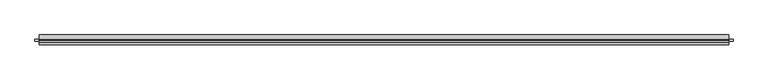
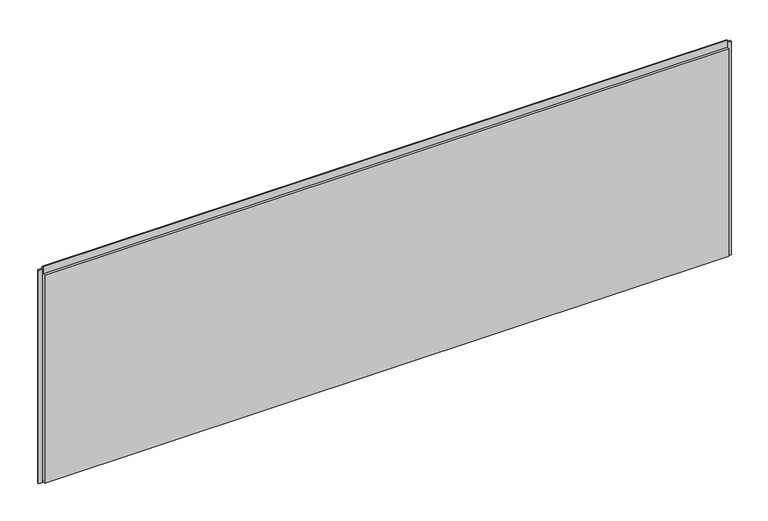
"""IFC4 building model written with IfcOpenShell, lengths in millimetres: plate geometry, Trimo_Qbiss Screen_Normal Panel-HORIZONTAL : HR - B."""

from ifc_helpers import new_model, si_unit, frame, origin, place, context, project, spatial, polyline, outline, extrude, source, transform, mapped, element, save


def plate_c888fad8(model_context):
    return source(origin(), model_context, "Body", "SweptSolid", [
        extrude(outline(polyline([(-1778.0, 76.5978162), (-1778.0, 67.8978162), (-1797.0, 67.8978162), (-1797.0, 76.5978162), (-1778.0, 76.5978162)])), frame((0.0, 0.0, -1.0), z_axis=(0.0, 0.0, 1.0), x_axis=(1.0, 0.0, 0.0)), (0.0, 0.0, 1.0), 1170.0),
        extrude(outline(polyline([(1778.0, 67.8978162), (1778.0, 76.5978162), (1797.0, 76.5978162), (1797.0, 67.8978162), (1778.0, 67.8978162)])), frame((0.0, 0.0, -1.0), z_axis=(0.0, 0.0, 1.0), x_axis=(1.0, 0.0, 0.0)), (0.0, 0.0, 1.0), 1170.0),
        extrude(outline(polyline([(1775.0, 76.0), (1775.0, 71.0), (-1775.0, 71.0), (-1775.0, 76.0), (1775.0, 76.0)])), frame((0.0, 0.0, 1148.0), z_axis=(0.0, 0.0, 1.0), x_axis=(1.0, 0.0, 0.0)), (0.0, 0.0, 1.0), 21.0),
        extrude(outline(polyline([(71.0, 1147.0), (100.0, 1147.0), (100.0, 0.0), (72.0, 0.0), (72.0, 15.5), (62.0, 15.5), (62.0, 7.0), (50.0, 7.0), (50.0, 1147.0), (63.0, 1147.0), (63.0, 1184.5), (71.0, 1184.5), (71.0, 1147.0)])), frame((-1775.0, 0.0, 0.0), z_axis=(1.0, 0.0, 0.0), x_axis=(0.0, 1.0, 0.0)), (0.0, 0.0, 1.0), 3550.0),
    ])


if __name__ == "__main__":
    model = new_model("IFC4")
    model_context = context("Model", 3, world=origin())
    ifc_project = project(units=[si_unit("LENGTHUNIT", "METRE", prefix="MILLI")], contexts=[model_context])
    site = spatial("IfcSite", under=ifc_project)
    building = spatial("IfcBuilding", under=site)
    placement = place(None, origin())
    plate_shape = plate_c888fad8(model_context)
    element("IfcPlate", 1, ObjectType="Trimo_Qbiss Screen_Normal Panel-HORIZONTAL : HR - B", at=placement, inside=building, context=model_context, shape_type="MappedRepresentation", body=[
        mapped(plate_shape, transform((0.0, 0.0, 0.0), x_axis=(1.0, 0.0, 0.0), y_axis=(0.0, 1.0, 0.0), z_axis=(0.0, 0.0, 1.0))),
    ])
    save(model, "model.ifc")
